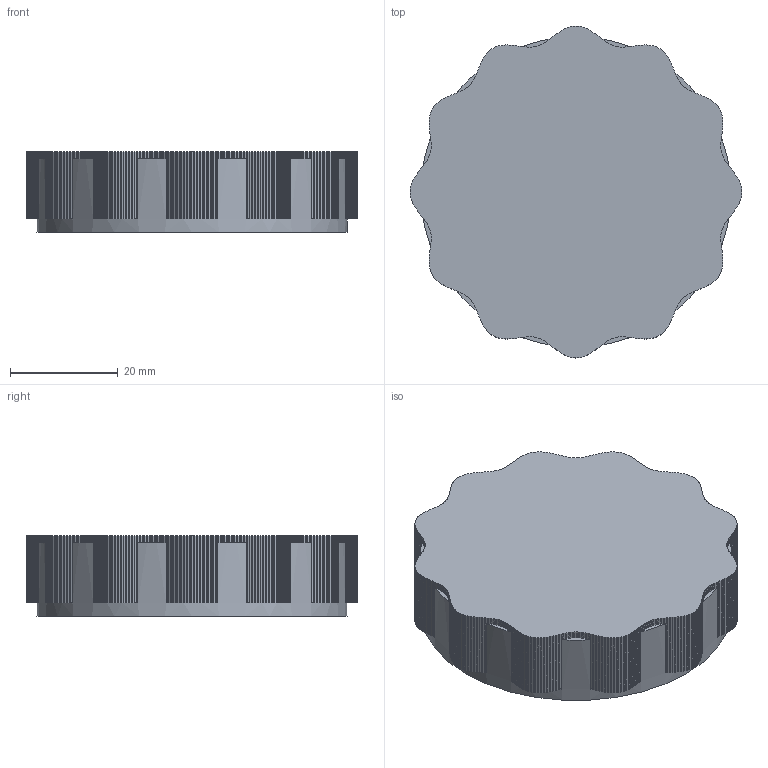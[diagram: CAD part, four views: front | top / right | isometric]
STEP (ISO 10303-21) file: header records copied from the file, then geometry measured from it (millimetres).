
FILE_DESCRIPTION(('Open CASCADE Model'),'2;1');
FILE_NAME('Open CASCADE Shape Model','2026-11-13T04:59:59',('Author'),( 'Open CASCADE'),'Open CASCADE STEP processor 7.9','Open CASCADE 7.9' ,'Unknown');
FILE_SCHEMA(('AUTOMOTIVE_DESIGN { 1 0 10303 214 1 1 1 1 }'));
Products named in the file (1): Open CASCADE STEP translator 7.9 5
Bounding box: 61.6 x 61.6 x 15 mm (x, y, z)
Volume: 12999.7 mm3; surface area: 10888.5 mm2
Topology: 1 solids, 1 shells, 765 faces, 2277 edges, 1518 vertices
Faces by surface type: plane 758, cylinder 7
Full cylindrical faces by diameter (mm): 50 x1, 51.95 x1, 57.6 x1
Entity records: 54216 total; most frequent: CARTESIAN_POINT 9803, DIRECTION 7793, LINE 6163, VECTOR 6163, ORIENTED_EDGE 4554, PCURVE 4554, DEFINITIONAL_REPRESENTATION 4554, EDGE_CURVE 2277
